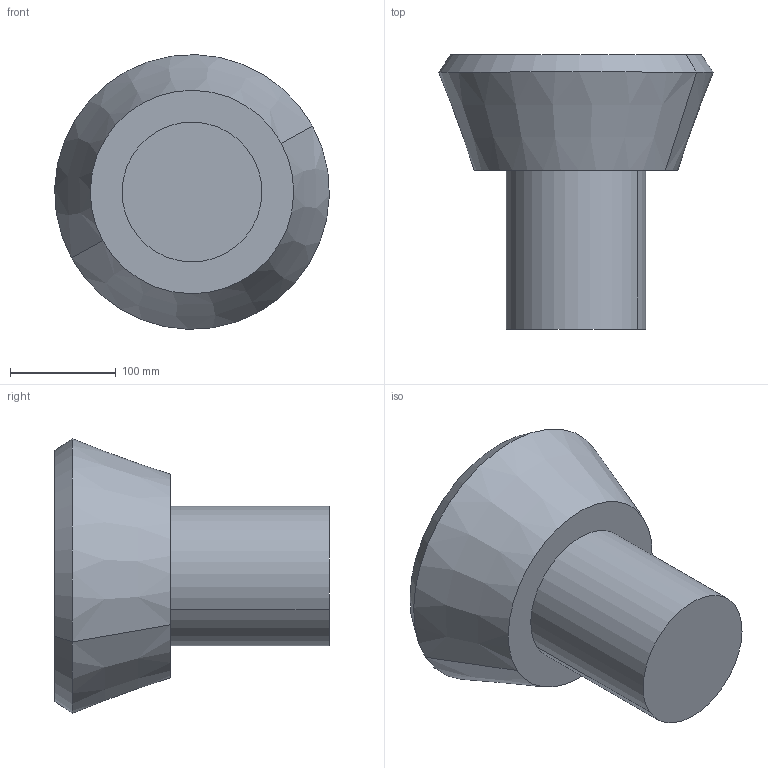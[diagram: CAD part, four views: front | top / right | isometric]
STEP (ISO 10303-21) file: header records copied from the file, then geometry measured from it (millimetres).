
FILE_DESCRIPTION(('CATIA V5 STEP Exchange'),'2;1');
FILE_NAME('C:\_Andres\UNIVERSIDAD\IQS\ASIGNATURAS\DAO\EXF\EXF-15161c\1original\Esteva_Esteve_Ej09-optimiza_v6.stp','2016-03-04T21:55:27+00:00',('none'),('none'),'CATIA Version 5 Release 20 SP 1 (IN-10)','CATIA V5 STEP AP203','none');
FILE_SCHEMA(('CONFIG_CONTROL_DESIGN'));
Length unit declared in the file: millimetre
Products named in the file (1): Esteva_Esteve_Ej09-optimiza_v6
Bounding box: 259.35 x 259 x 259.35 mm (x, y, z)
Volume: 6559082.4 mm3; surface area: 224947.6 mm2
Topology: 1 solids, 2 shells, 13 faces, 22 edges, 14 vertices
Faces by surface type: plane 5, cylinder 4, cone 4
Entity records: 324 total; most frequent: CARTESIAN_POINT 47, ORIENTED_EDGE 44, DIRECTION 42, AXIS2_PLACEMENT_3D 25, EDGE_CURVE 22, CIRCLE 14, EDGE_LOOP 14, VERTEX_POINT 14
